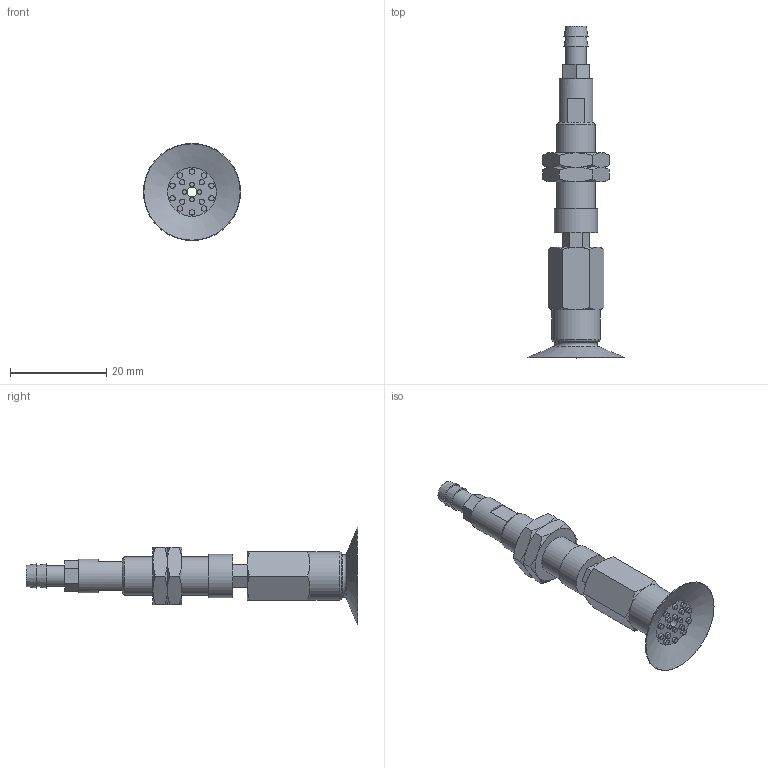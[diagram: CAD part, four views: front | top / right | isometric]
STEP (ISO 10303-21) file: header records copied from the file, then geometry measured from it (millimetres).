
FILE_DESCRIPTION(('STEP AP203'),'1');
FILE_NAME('-T.stp','2025-08-21T08:29:59',(' '),(' '),'Spatial InterOp 3D',' ',' ');
FILE_SCHEMA(('CONFIG_CONTROL_DESIGN'));
Length unit declared in the file: millimetre
Products named in the file (7): BNABPATH-20A-3-※-T; ADAPTER; NAPATH-10A-3--M; NAPATH-20A-3--F; Nut-10A-S; CONNECTOR-10A-3-T-PA; BPAG-20A-※
Assembly tree (7 placements, depth 2):
  BNABPATH-20A-3-※-T
    ADAPTER
    NAPATH-10A-3--M
    NAPATH-20A-3--F
    Nut-10A-S  x2
    CONNECTOR-10A-3-T-PA
    BPAG-20A-※
Bounding box: 20.19 x 69 x 20.19 mm (x, y, z)
Volume: 3881.9 mm3; surface area: 4966.9 mm2
Topology: 7 solids, 7 shells, 177 faces, 354 edges, 220 vertices
Faces by surface type: plane 83, cone 49, cylinder 35, torus 10
Full cylindrical faces by diameter (mm): 0.9 x4, 1.1 x14, 2 x3, 3 x1, 4 x2, 4.134 x1, 4.3 x1, 5 x1, 6 x2, 7 x1, 7.188 x2, 8 x1, 9 x1, 10 x1
Entity records: 4182 total; most frequent: CARTESIAN_POINT 876, DIRECTION 636, ORIENTED_EDGE 484, AXIS2_PLACEMENT_3D 280, EDGE_LOOP 250, EDGE_CURVE 242, FACE_OUTER_BOUND 198, VERTEX_POINT 184
